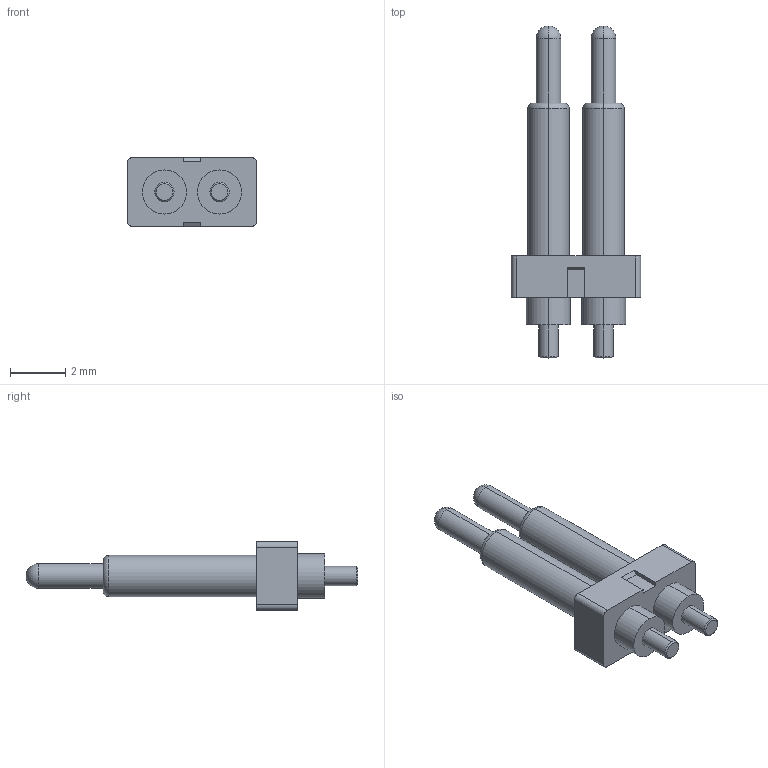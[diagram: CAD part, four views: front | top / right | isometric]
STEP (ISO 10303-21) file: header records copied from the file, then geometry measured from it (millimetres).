
FILE_DESCRIPTION((''),'2;1');
FILE_NAME('ASM0001_ASM','2022-03-29T14:46:16',('Administrator'),(''),'CREO PARAMETRIC BY PTC INC, 2018400','CREO PARAMETRIC BY PTC INC, 2018400','');
FILE_SCHEMA(('CONFIG_CONTROL_DESIGN'));
Length unit declared in the file: millimetre
Products named in the file (3): PH-2P-2_0PH-1_5H-A0001; NC4563-01PA; ASM0001_ASM
Assembly tree (3 placements, depth 2):
  ASM0001_ASM
    PH-2P-2_0PH-1_5H-A0001
    NC4563-01PA  x2
Bounding box: 4.7 x 12.05 x 2.5 mm (x, y, z)
Volume: 45.2 mm3; surface area: 155.8 mm2
Topology: 3 solids, 3 shells, 72 faces, 160 edges, 98 vertices
Faces by surface type: cylinder 32, plane 24, cone 8, torus 4, sphere 4
Entity records: 1442 total; most frequent: DIRECTION 262, CARTESIAN_POINT 230, ORIENTED_EDGE 216, EDGE_CURVE 108, AXIS2_PLACEMENT_3D 101, VERTEX_POINT 69, VECTOR 60, LINE 60
